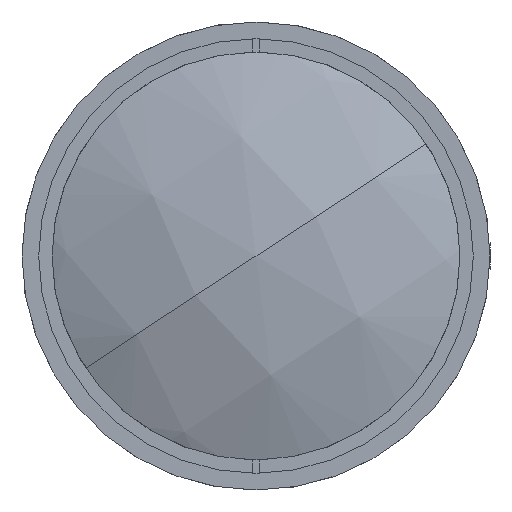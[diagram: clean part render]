
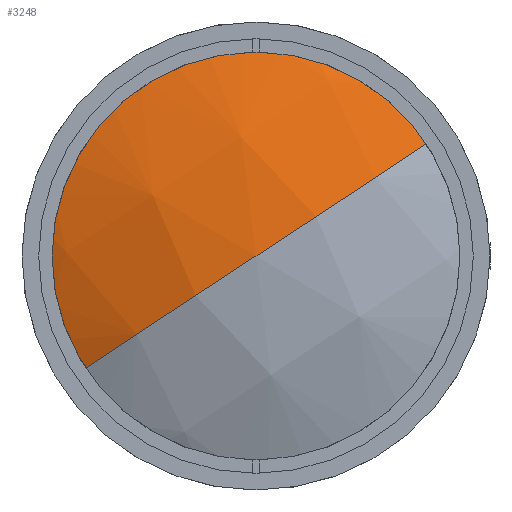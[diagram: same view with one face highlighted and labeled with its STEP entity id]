
A CAD part, left-side view. The second image highlights one B-rep face of the part: STEP entity #3248.
In plain terms, the highlighted spherical face has radius 77.627 mm.
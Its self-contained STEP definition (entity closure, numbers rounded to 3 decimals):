
#152 = DIRECTION ( 'NONE',  ( 0., 0.549, 0.836 ) ) ;
#1015 = CARTESIAN_POINT ( 'NONE',  ( 7.678, -26.323, 17.302 ) ) ;
#1409 = EDGE_CURVE ( 'NONE', #10395, #16116, #3801, .T. ) ;
#1816 = DIRECTION ( 'NONE',  ( 0., 0.549, 0.836 ) ) ;
#2787 = AXIS2_PLACEMENT_3D ( 'NONE', #5812, #16859, #7409 ) ;
#3248 = ADVANCED_FACE ( 'NONE', ( #15892 ), #3763, .T. ) ;
#3403 = CARTESIAN_POINT ( 'NONE',  ( 78.627, 0., 0. ) ) ;
#3763 = SPHERICAL_SURFACE ( 'NONE', #19287, 77.627 ) ;
#3801 = CIRCLE ( 'NONE', #9901, 77.627 ) ;
#4485 = CIRCLE ( 'NONE', #15044, 31.5 ) ;
#5812 = CARTESIAN_POINT ( 'NONE',  ( 78.627, 0., 0. ) ) ;
#6362 = CARTESIAN_POINT ( 'NONE',  ( 1., 0., 0. ) ) ;
#7409 = DIRECTION ( 'NONE',  ( 0., 0.836, -0.549 ) ) ;
#8049 = DIRECTION ( 'NONE',  ( 0., 0.549, 0.836 ) ) ;
#8224 = DIRECTION ( 'NONE',  ( 0., -0.836, 0.549 ) ) ;
#9679 = DIRECTION ( 'NONE',  ( -1., 0., 0. ) ) ;
#9901 = AXIS2_PLACEMENT_3D ( 'NONE', #17482, #8049, #19064 ) ;
#10395 = VERTEX_POINT ( 'NONE', #19665 ) ;
#11359 = EDGE_CURVE ( 'NONE', #18033, #16116, #18824, .T. ) ;
#12109 = ORIENTED_EDGE ( 'NONE', *, *, #17794, .T. ) ;
#14528 = ORIENTED_EDGE ( 'NONE', *, *, #11359, .F. ) ;
#15044 = AXIS2_PLACEMENT_3D ( 'NONE', #19109, #9679, #152 ) ;
#15892 = FACE_OUTER_BOUND ( 'NONE', #17026, .T. ) ;
#16116 = VERTEX_POINT ( 'NONE', #6362 ) ;
#16281 = ORIENTED_EDGE ( 'NONE', *, *, #1409, .T. ) ;
#16859 = DIRECTION ( 'NONE',  ( 0., -0.549, -0.836 ) ) ;
#17026 = EDGE_LOOP ( 'NONE', ( #12109, #16281, #14528 ) ) ;
#17482 = CARTESIAN_POINT ( 'NONE',  ( 78.627, 0., 0. ) ) ;
#17794 = EDGE_CURVE ( 'NONE', #18033, #10395, #4485, .T. ) ;
#18033 = VERTEX_POINT ( 'NONE', #1015 ) ;
#18824 = CIRCLE ( 'NONE', #2787, 77.627 ) ;
#19064 = DIRECTION ( 'NONE',  ( 0., -0.836, 0.549 ) ) ;
#19109 = CARTESIAN_POINT ( 'NONE',  ( 7.678, 0., 0. ) ) ;
#19287 = AXIS2_PLACEMENT_3D ( 'NONE', #3403, #1816, #8224 ) ;
#19665 = CARTESIAN_POINT ( 'NONE',  ( 7.678, 26.323, -17.302 ) ) ;
